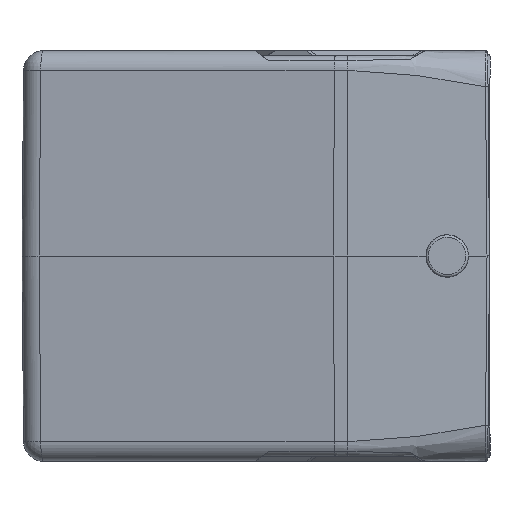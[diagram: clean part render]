
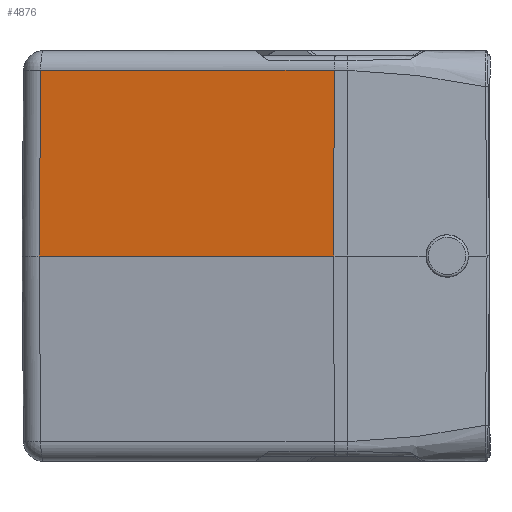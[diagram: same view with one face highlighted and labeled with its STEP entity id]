
A CAD part, left-side view. The second image highlights one B-rep face of the part: STEP entity #4876.
In plain terms, the highlighted planar face has unit normal (-0.99, 0.139, 0.009).
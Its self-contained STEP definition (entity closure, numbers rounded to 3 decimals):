
#117 = EDGE_CURVE ( 'NONE', #14174, #16518, #9605, .T. ) ;
#431 = VECTOR ( 'NONE', #3622, 1000. ) ;
#460 = VERTEX_POINT ( 'NONE', #1402 ) ;
#1402 = CARTESIAN_POINT ( 'NONE',  ( -46.805, -15.653, 0. ) ) ;
#2003 = ORIENTED_EDGE ( 'NONE', *, *, #3531, .F. ) ;
#2610 = VECTOR ( 'NONE', #8054, 1000. ) ;
#2671 = CARTESIAN_POINT ( 'NONE',  ( -38., 47., 0. ) ) ;
#3300 = CARTESIAN_POINT ( 'NONE',  ( -38.484, 43.557, 0. ) ) ;
#3531 = EDGE_CURVE ( 'NONE', #16518, #15251, #12757, .T. ) ;
#3622 = DIRECTION ( 'NONE',  ( 0.008, -0.009, 1. ) ) ;
#4200 = FACE_OUTER_BOUND ( 'NONE', #11086, .T. ) ;
#4876 = ADVANCED_FACE ( 'NONE', ( #4200 ), #5000, .T. ) ;
#5000 = PLANE ( 'NONE',  #13284 ) ;
#5868 = CARTESIAN_POINT ( 'NONE',  ( -46.48, -15.676, 37.285 ) ) ;
#7246 = CARTESIAN_POINT ( 'NONE',  ( -38.201, 43.231, 37.285 ) ) ;
#8054 = DIRECTION ( 'NONE',  ( -0.009, 0.001, -1. ) ) ;
#9157 = VECTOR ( 'NONE', #14863, 1000. ) ;
#9305 = ORIENTED_EDGE ( 'NONE', *, *, #117, .F. ) ;
#9605 = LINE ( 'NONE', #14109, #431 ) ;
#9632 = VECTOR ( 'NONE', #11693, 1000. ) ;
#10932 = ORIENTED_EDGE ( 'NONE', *, *, #15761, .T. ) ;
#11086 = EDGE_LOOP ( 'NONE', ( #9305, #10932, #12207, #2003 ) ) ;
#11693 = DIRECTION ( 'NONE',  ( -0.139, -0.99, 0. ) ) ;
#12205 = DIRECTION ( 'NONE',  ( -0.99, 0.139, 0.009 ) ) ;
#12207 = ORIENTED_EDGE ( 'NONE', *, *, #16391, .F. ) ;
#12211 = CARTESIAN_POINT ( 'NONE',  ( -46.805, -15.653, -0.001 ) ) ;
#12757 = LINE ( 'NONE', #13479, #9157 ) ;
#13284 = AXIS2_PLACEMENT_3D ( 'NONE', #2671, #12205, #14972 ) ;
#13303 = LINE ( 'NONE', #14538, #9632 ) ;
#13479 = CARTESIAN_POINT ( 'NONE',  ( -34.698, 68.154, 37.285 ) ) ;
#14109 = CARTESIAN_POINT ( 'NONE',  ( -38.484, 43.557, -0.026 ) ) ;
#14174 = VERTEX_POINT ( 'NONE', #3300 ) ;
#14538 = CARTESIAN_POINT ( 'NONE',  ( -38., 47., 0. ) ) ;
#14799 = LINE ( 'NONE', #12211, #2610 ) ;
#14863 = DIRECTION ( 'NONE',  ( -0.139, -0.99, 0. ) ) ;
#14972 = DIRECTION ( 'NONE',  ( -0.139, -0.99, 0. ) ) ;
#15251 = VERTEX_POINT ( 'NONE', #5868 ) ;
#15761 = EDGE_CURVE ( 'NONE', #14174, #460, #13303, .T. ) ;
#16391 = EDGE_CURVE ( 'NONE', #15251, #460, #14799, .T. ) ;
#16518 = VERTEX_POINT ( 'NONE', #7246 ) ;
